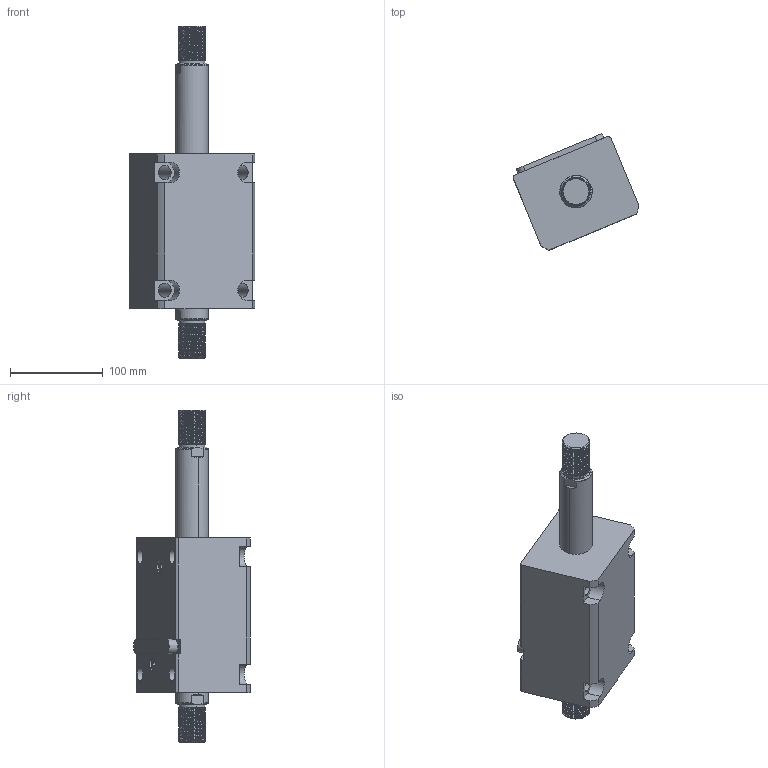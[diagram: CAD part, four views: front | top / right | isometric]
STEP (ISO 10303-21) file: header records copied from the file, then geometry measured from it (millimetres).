
FILE_DESCRIPTION (( 'STEP AP214' ), '1' );
FILE_NAME ('chtb-lwm63x85w_asm.STEP', '2018-05-22T02:00:51', ( 'Windows' ), ( 'Microsoft' ), 'SwSTEP 2.0', 'SolidWorks 2015', '' );
FILE_SCHEMA (( 'AUTOMOTIVE_DESIGN' ));
Length unit declared in the file: millimetre
Products named in the file (5): CHTB-SW63X85WHSG; CHTB-LWM63X85NBT; CHTB-LA63PJ; CHTB-63QG; chtb-lwm63x85w_asm
Assembly tree (4 placements, depth 2):
  chtb-lwm63x85w_asm
    CHTB-63QG
    CHTB-LA63PJ
    CHTB-LWM63X85NBT
    CHTB-SW63X85WHSG
Bounding box: 135.77 x 126.06 x 358 mm (x, y, z)
Volume: 1592539.2 mm3; surface area: 208750.8 mm2
Topology: 4 solids, 4 shells, 298 faces, 869 edges, 587 vertices
Faces by surface type: cylinder 203, plane 55, bspline 16, cone 12, torus 12
Entity records: 27660 total; most frequent: CARTESIAN_POINT 20506, ORIENTED_EDGE 1730, DIRECTION 1186, EDGE_CURVE 865, VERTEX_POINT 587, AXIS2_PLACEMENT_3D 440, EDGE_LOOP 326, VECTOR 306
